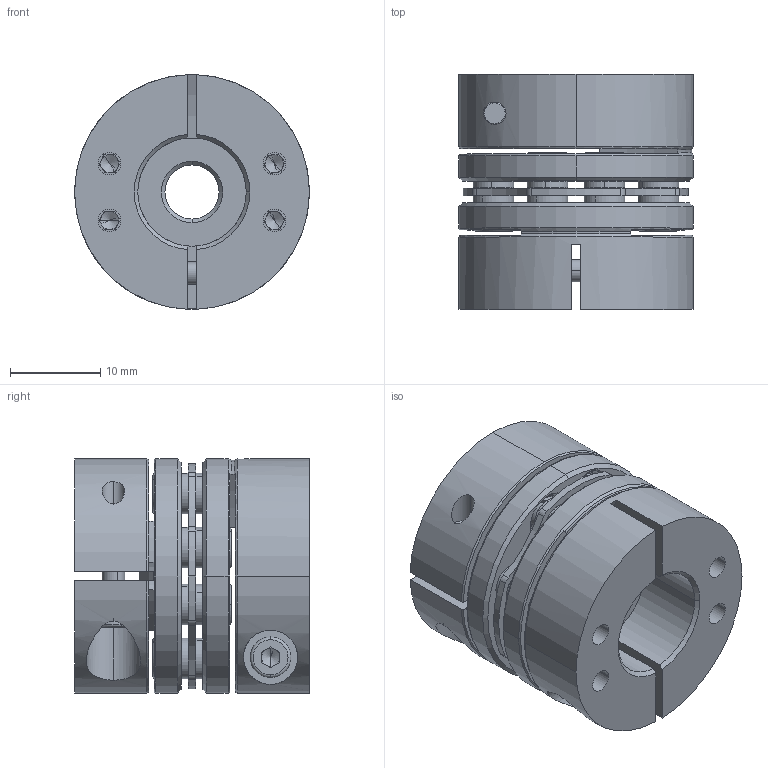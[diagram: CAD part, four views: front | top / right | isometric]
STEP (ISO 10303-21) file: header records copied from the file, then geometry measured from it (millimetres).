
FILE_DESCRIPTION (( 'STEP AP203' ), '1' );
FILE_NAME ('LDG-D26-6-12.STEP', '2021-10-28T03:25:57', ( '' ), ( '' ), 'SwSTEP 2.0', 'SolidWorks 2018', '' );
FILE_SCHEMA (( 'CONFIG_CONTROL_DESIGN' ));
Length unit declared in the file: millimetre
Products named in the file (2): LDG-D26-6-12; 錨璃2^LDG-D26蚾饜芞1
Assembly tree (1 placements, depth 2):
  LDG-D26-6-12
    錨璃2^LDG-D26蚾饜芞1
Bounding box: 26 x 26 x 26 mm (x, y, z)
Volume: 9686.9 mm3; surface area: 8929.9 mm2
Topology: 1 solids, 21 shells, 765 faces, 1872 edges, 1159 vertices
Faces by surface type: cylinder 301, plane 244, cone 200, torus 20
Entity records: 23057 total; most frequent: DIRECTION 4281, CARTESIAN_POINT 4164, ORIENTED_EDGE 3688, EDGE_CURVE 1844, AXIS2_PLACEMENT_3D 1740, VERTEX_POINT 1159, CIRCLE 971, EDGE_LOOP 909
